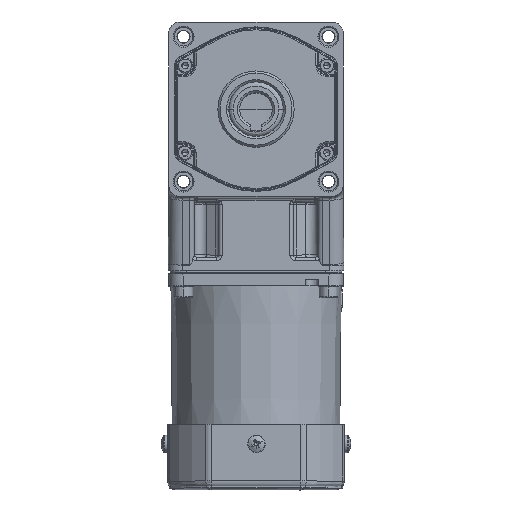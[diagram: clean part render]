
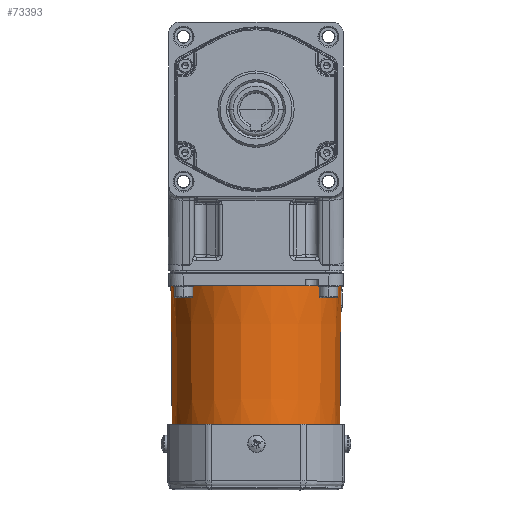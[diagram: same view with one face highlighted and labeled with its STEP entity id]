
A CAD part, top view. The second image highlights one B-rep face of the part: STEP entity #73393.
In plain terms, the highlighted conical face has half-angle 0.5 degrees and reference radius 39 mm.
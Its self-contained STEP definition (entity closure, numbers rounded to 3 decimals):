
#993 = CARTESIAN_POINT ( 'NONE',  ( 0., 0., 39. ) ) ;
#5599 = CIRCLE ( 'NONE', #24663, 38.393 ) ;
#10263 = CIRCLE ( 'NONE', #74982, 39. ) ;
#10570 = DIRECTION ( 'NONE',  ( 0., 1., 0. ) ) ;
#11211 = CARTESIAN_POINT ( 'NONE',  ( 0., 0., -39. ) ) ;
#11236 = CARTESIAN_POINT ( 'NONE',  ( 0., 0., 0. ) ) ;
#13341 = CARTESIAN_POINT ( 'NONE',  ( 0., 0., 39. ) ) ;
#16365 = EDGE_LOOP ( 'NONE', ( #70602, #39848, #78394, #47342 ) ) ;
#16960 = DIRECTION ( 'NONE',  ( 0., -1., 0. ) ) ;
#22955 = DIRECTION ( 'NONE',  ( 0., -1., 0.009 ) ) ;
#24423 = VERTEX_POINT ( 'NONE', #13341 ) ;
#24663 = AXIS2_PLACEMENT_3D ( 'NONE', #33062, #82980, #40260 ) ;
#25244 = EDGE_CURVE ( 'NONE', #24423, #45266, #10263, .T. ) ;
#26639 = EDGE_CURVE ( 'NONE', #34556, #86650, #5599, .T. ) ;
#27887 = EDGE_CURVE ( 'NONE', #86650, #24423, #33026, .T. ) ;
#33026 = LINE ( 'NONE', #993, #64489 ) ;
#33062 = CARTESIAN_POINT ( 'NONE',  ( 0., 69.5, 0. ) ) ;
#34556 = VERTEX_POINT ( 'NONE', #70926 ) ;
#39848 = ORIENTED_EDGE ( 'NONE', *, *, #27887, .T. ) ;
#40260 = DIRECTION ( 'NONE',  ( 0., 0., -1. ) ) ;
#45266 = VERTEX_POINT ( 'NONE', #70853 ) ;
#47342 = ORIENTED_EDGE ( 'NONE', *, *, #89867, .F. ) ;
#53815 = CARTESIAN_POINT ( 'NONE',  ( 0., 0., 0. ) ) ;
#54435 = DIRECTION ( 'NONE',  ( 0., -1., -0.009 ) ) ;
#60947 = DIRECTION ( 'NONE',  ( 0., 0., -1. ) ) ;
#61569 = DIRECTION ( 'NONE',  ( 0., 0., -1. ) ) ;
#64489 = VECTOR ( 'NONE', #22955, 1000. ) ;
#68553 = CONICAL_SURFACE ( 'NONE', #71667, 39., 0.009 ) ;
#70602 = ORIENTED_EDGE ( 'NONE', *, *, #26639, .T. ) ;
#70853 = CARTESIAN_POINT ( 'NONE',  ( 0., 0., -39. ) ) ;
#70926 = CARTESIAN_POINT ( 'NONE',  ( 0., 69.5, -38.393 ) ) ;
#71667 = AXIS2_PLACEMENT_3D ( 'NONE', #11236, #16960, #61569 ) ;
#73393 = ADVANCED_FACE ( 'NONE', ( #74851 ), #68553, .T. ) ;
#74851 = FACE_OUTER_BOUND ( 'NONE', #16365, .T. ) ;
#74982 = AXIS2_PLACEMENT_3D ( 'NONE', #53815, #10570, #60947 ) ;
#76745 = CARTESIAN_POINT ( 'NONE',  ( 0., 69.5, 38.393 ) ) ;
#78394 = ORIENTED_EDGE ( 'NONE', *, *, #25244, .T. ) ;
#79722 = LINE ( 'NONE', #11211, #85232 ) ;
#82980 = DIRECTION ( 'NONE',  ( 0., -1., 0. ) ) ;
#85232 = VECTOR ( 'NONE', #54435, 1000. ) ;
#86650 = VERTEX_POINT ( 'NONE', #76745 ) ;
#89867 = EDGE_CURVE ( 'NONE', #34556, #45266, #79722, .T. ) ;
